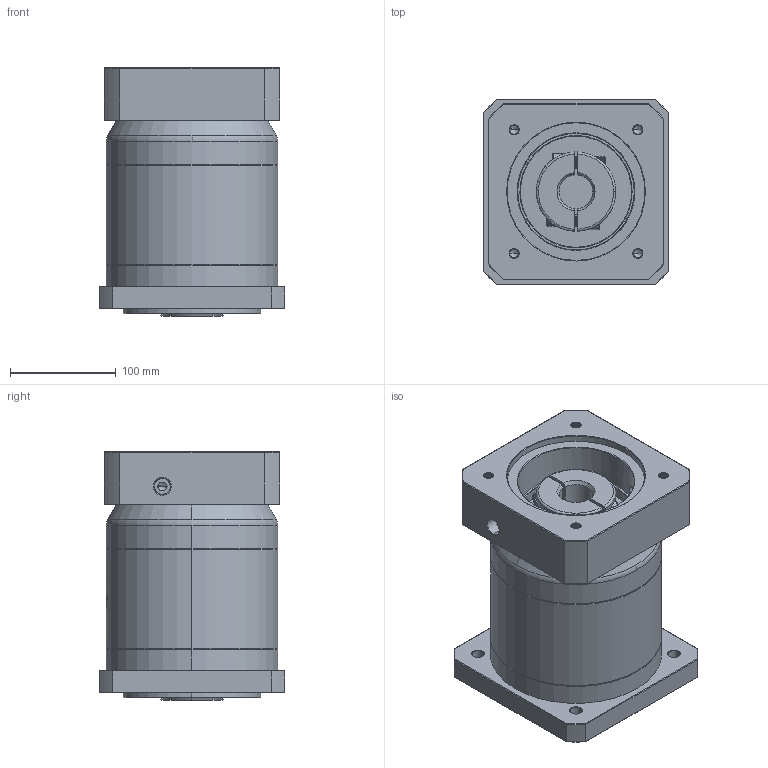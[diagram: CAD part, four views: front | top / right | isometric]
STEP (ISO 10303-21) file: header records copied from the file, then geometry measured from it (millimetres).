
FILE_DESCRIPTION (( 'STEP AP214' ), '1' );
FILE_NAME ('ZF160A-K35-L2-P2-32-130-165-M10.step', '2023-09-03T07:02:51', ( '' ), ( '' ), 'SwSTEP 2.0', 'SolidWorks 2016', '' );
FILE_SCHEMA (( 'AUTOMOTIVE_DESIGN' ));
Length unit declared in the file: millimetre
Products named in the file (1): ZF160A-K35-L2-P2-32-130-165-M10
Bounding box: 175 x 175 x 234.2 mm (x, y, z)
Volume: 4699805.3 mm3; surface area: 347575.8 mm2
Topology: 6 solids, 6 shells, 2148 faces, 5812 edges, 3768 vertices
Faces by surface type: plane 1010, bspline 404, cylinder 392, cone 320, torus 22
Entity records: 119016 total; most frequent: CARTESIAN_POINT 46308, ORIENTED_EDGE 11568, DIRECTION 8463, EDGE_CURVE 5784, VERTEX_POINT 3768, LINE 3013, VECTOR 3013, AXIS2_PLACEMENT_3D 2725
